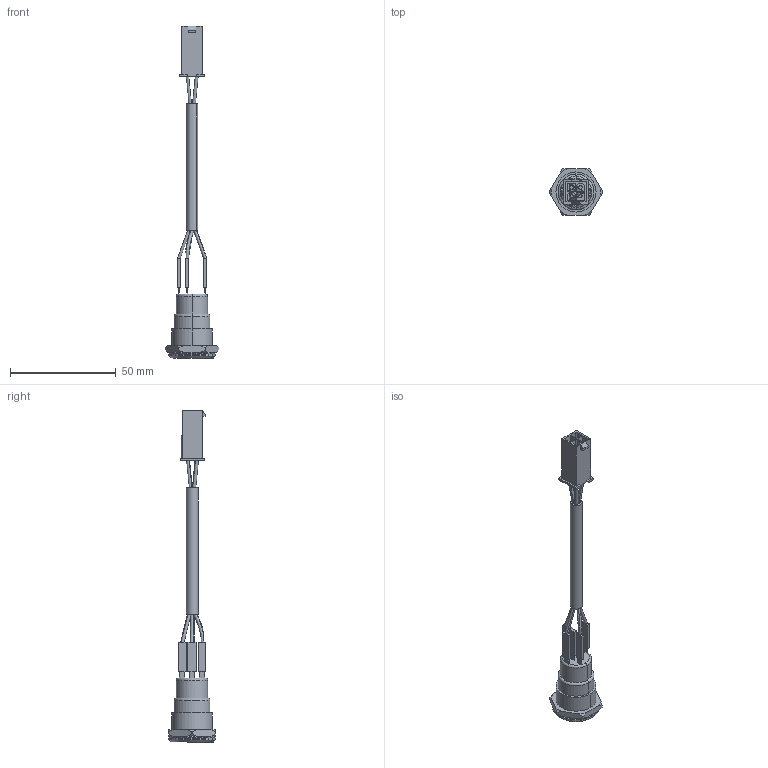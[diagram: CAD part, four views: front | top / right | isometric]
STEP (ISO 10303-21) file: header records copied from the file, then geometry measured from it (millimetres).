
FILE_DESCRIPTION (( 'STEP AP203' ), '1' );
FILE_NAME ('ezSPBC-BD_B Droit.STEP', '2017-05-24T07:56:55', ( '' ), ( '' ), 'SwSTEP 2.0', 'SolidWorks 2014', '' );
FILE_SCHEMA (( 'CONFIG_CONTROL_DESIGN' ));
Length unit declared in the file: millimetre
Products named in the file (4): M_202465; 039013043; ezSPBC-BD_B Droit; Cable B
Assembly tree (3 placements, depth 2):
  ezSPBC-BD_B Droit
    Cable B
    M_202465
    039013043
Bounding box: 25.5 x 22.1 x 157.2 mm (x, y, z)
Volume: 10646.6 mm3; surface area: 8676.9 mm2
Topology: 7 solids, 7 shells, 272 faces, 677 edges, 438 vertices
Faces by surface type: plane 181, cylinder 53, bspline 16, cone 14, torus 8
Entity records: 8703 total; most frequent: CARTESIAN_POINT 1769, ORIENTED_EDGE 1354, DIRECTION 1331, EDGE_CURVE 677, VECTOR 459, LINE 459, VERTEX_POINT 438, AXIS2_PLACEMENT_3D 436
